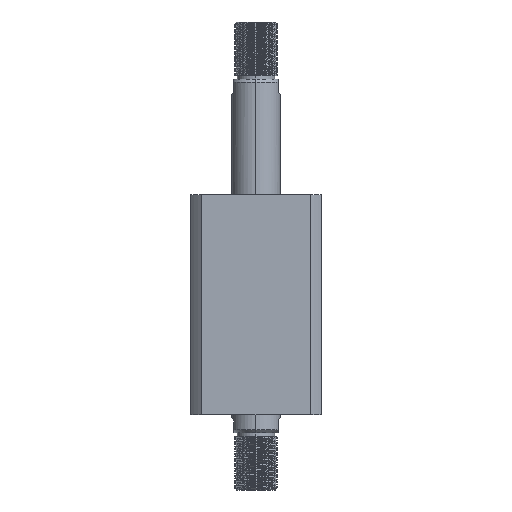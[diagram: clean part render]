
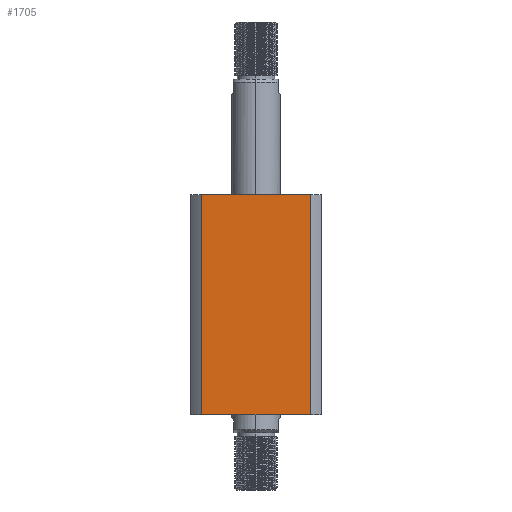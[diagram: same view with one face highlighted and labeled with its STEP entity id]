
A CAD part, left-side view. The second image highlights one B-rep face of the part: STEP entity #1705.
In plain terms, the highlighted planar face has unit normal (-1, 0, 0).
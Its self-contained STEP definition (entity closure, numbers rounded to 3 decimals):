
#442 = EDGE_LOOP ( 'NONE', ( #12890, #11761, #1741, #13027 ) ) ;
#1091 = CARTESIAN_POINT ( 'NONE',  ( -40., -33.226, 67.5 ) ) ;
#1705 = ADVANCED_FACE ( 'NONE', ( #17538 ), #2453, .F. ) ;
#1741 = ORIENTED_EDGE ( 'NONE', *, *, #3281, .F. ) ;
#2376 = EDGE_CURVE ( 'NONE', #6859, #10920, #13258, .T. ) ;
#2453 = PLANE ( 'NONE',  #15002 ) ;
#3228 = DIRECTION ( 'NONE',  ( 0., -1., 0. ) ) ;
#3281 = EDGE_CURVE ( 'NONE', #6859, #14860, #17269, .T. ) ;
#3573 = VECTOR ( 'NONE', #4568, 1000. ) ;
#3886 = DIRECTION ( 'NONE',  ( 1., 0., 0. ) ) ;
#4243 = CARTESIAN_POINT ( 'NONE',  ( -40., 33.226, 67.5 ) ) ;
#4568 = DIRECTION ( 'NONE',  ( 0., 0., -1. ) ) ;
#4607 = CARTESIAN_POINT ( 'NONE',  ( -40., 33.226, -67.5 ) ) ;
#4933 = VECTOR ( 'NONE', #17619, 1000. ) ;
#5331 = DIRECTION ( 'NONE',  ( 0., 1., 0. ) ) ;
#6026 = EDGE_CURVE ( 'NONE', #14860, #14191, #12765, .T. ) ;
#6661 = CARTESIAN_POINT ( 'NONE',  ( -40., 33.226, 67.5 ) ) ;
#6859 = VERTEX_POINT ( 'NONE', #15282 ) ;
#9040 = DIRECTION ( 'NONE',  ( 0., 0., -1. ) ) ;
#10920 = VERTEX_POINT ( 'NONE', #12610 ) ;
#10951 = EDGE_CURVE ( 'NONE', #10920, #14191, #15536, .T. ) ;
#11711 = CARTESIAN_POINT ( 'NONE',  ( -40., -33.226, -67.5 ) ) ;
#11761 = ORIENTED_EDGE ( 'NONE', *, *, #6026, .F. ) ;
#11975 = VECTOR ( 'NONE', #3228, 1000. ) ;
#12610 = CARTESIAN_POINT ( 'NONE',  ( -40., 33.226, -67.5 ) ) ;
#12729 = CARTESIAN_POINT ( 'NONE',  ( -40., -33.226, 67.5 ) ) ;
#12765 = LINE ( 'NONE', #12729, #3573 ) ;
#12890 = ORIENTED_EDGE ( 'NONE', *, *, #10951, .T. ) ;
#13027 = ORIENTED_EDGE ( 'NONE', *, *, #2376, .T. ) ;
#13258 = LINE ( 'NONE', #17151, #16444 ) ;
#14191 = VERTEX_POINT ( 'NONE', #11711 ) ;
#14860 = VERTEX_POINT ( 'NONE', #1091 ) ;
#15002 = AXIS2_PLACEMENT_3D ( 'NONE', #6661, #3886, #5331 ) ;
#15282 = CARTESIAN_POINT ( 'NONE',  ( -40., 33.226, 67.5 ) ) ;
#15536 = LINE ( 'NONE', #4607, #11975 ) ;
#16444 = VECTOR ( 'NONE', #9040, 1000. ) ;
#17151 = CARTESIAN_POINT ( 'NONE',  ( -40., 33.226, 67.5 ) ) ;
#17269 = LINE ( 'NONE', #4243, #4933 ) ;
#17538 = FACE_OUTER_BOUND ( 'NONE', #442, .T. ) ;
#17619 = DIRECTION ( 'NONE',  ( 0., -1., 0. ) ) ;
